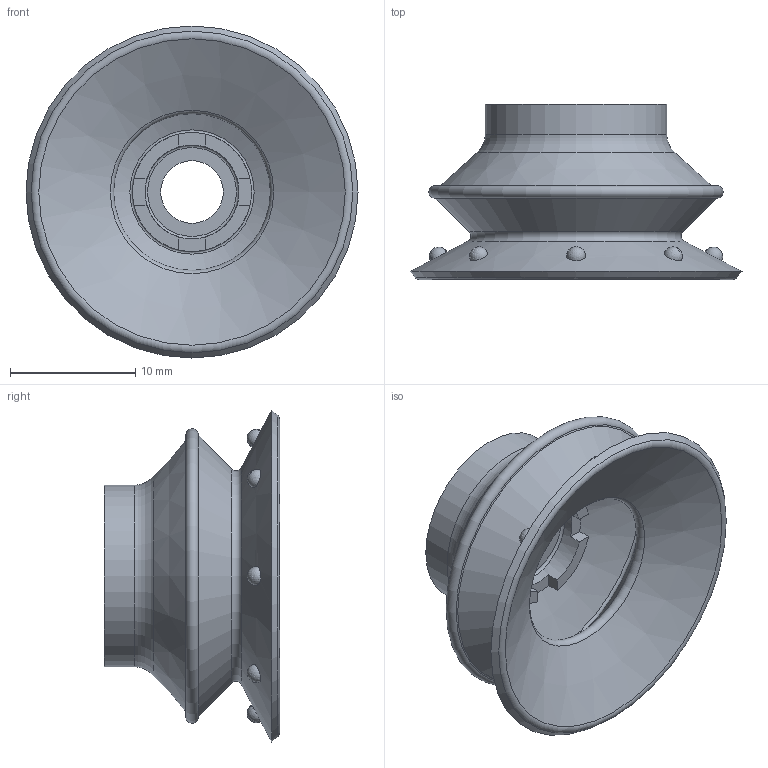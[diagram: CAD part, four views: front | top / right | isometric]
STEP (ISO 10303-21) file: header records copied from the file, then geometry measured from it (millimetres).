
FILE_DESCRIPTION (( 'STEP AP203' ), '1' );
FILE_NAME ('97C 25 PU A.STEP', '2022-05-25T15:05:24', ( '' ), ( '' ), 'SwSTEP 2.0', 'SolidWorks 2021', '' );
FILE_SCHEMA (( 'CONFIG_CONTROL_DESIGN' ));
Length unit declared in the file: millimetre
Products named in the file (1): 97C 25 PU A
Bounding box: 26.5 x 14 x 26.5 mm (x, y, z)
Volume: 1850.4 mm3; surface area: 2654.1 mm2
Topology: 1 solids, 1 shells, 50 faces, 132 edges, 84 vertices
Faces by surface type: plane 19, torus 11, sphere 8, cone 7, cylinder 5
Full cylindrical faces by diameter (mm): 5 x1, 6 x1, 7.5 x1, 9.5 x1, 14.5 x1
Entity records: 1491 total; most frequent: CARTESIAN_POINT 413, DIRECTION 216, ORIENTED_EDGE 162, AXIS2_PLACEMENT_3D 92, EDGE_LOOP 84, EDGE_CURVE 81, FACE_OUTER_BOUND 66, VERTEX_POINT 65
